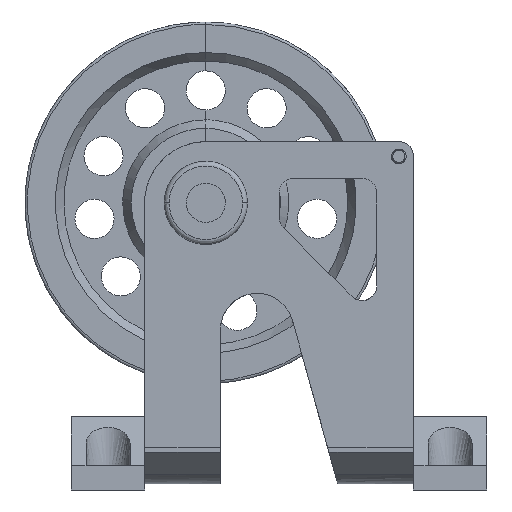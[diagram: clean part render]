
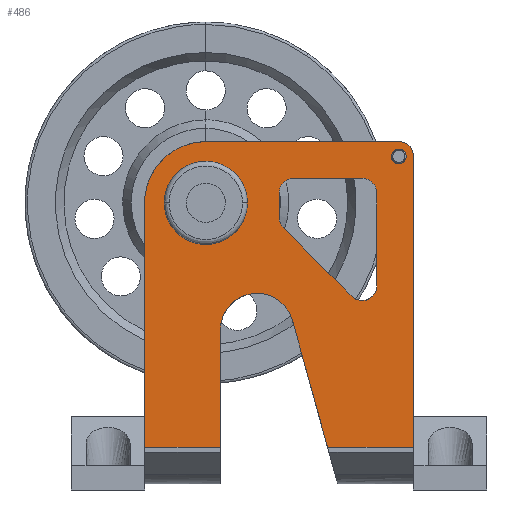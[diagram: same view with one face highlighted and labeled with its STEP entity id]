
A CAD part, front view. The second image highlights one B-rep face of the part: STEP entity #486.
In plain terms, the highlighted free-form (B-spline) face has degree [1, 1] with [2, 2] control points.
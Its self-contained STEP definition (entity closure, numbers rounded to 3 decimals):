
#117=B_SPLINE_SURFACE_WITH_KNOTS('',1,1,((#8280,#8281),(#8282,#8283)),.UNSPECIFIED.,
.F.,.F.,.F.,(2,2),(2,2),(-140.,-15.),(-31.,79.),.UNSPECIFIED.);
#324=FACE_BOUND('',#1217,.T.);
#325=FACE_BOUND('',#1218,.T.);
#326=FACE_BOUND('',#1219,.T.);
#486=ADVANCED_FACE('',(#833,#324,#325,#326),#117,.T.);
#833=FACE_OUTER_BOUND('',#1216,.T.);
#1216=EDGE_LOOP('',(#2124,#2125,#2126,#2127,#2128));
#1217=EDGE_LOOP('',(#2129,#2130));
#1218=EDGE_LOOP('',(#2131,#2132));
#1219=EDGE_LOOP('',(#2133,#2134));
#2124=ORIENTED_EDGE('',*,*,#3274,.F.);
#2125=ORIENTED_EDGE('',*,*,#3346,.F.);
#2126=ORIENTED_EDGE('',*,*,#3258,.T.);
#2127=ORIENTED_EDGE('',*,*,#3305,.F.);
#2128=ORIENTED_EDGE('',*,*,#3345,.F.);
#2129=ORIENTED_EDGE('',*,*,#3393,.F.);
#2130=ORIENTED_EDGE('',*,*,#3357,.F.);
#2131=ORIENTED_EDGE('',*,*,#3360,.T.);
#2132=ORIENTED_EDGE('',*,*,#3399,.T.);
#2133=ORIENTED_EDGE('',*,*,#3354,.T.);
#2134=ORIENTED_EDGE('',*,*,#3387,.T.);
#3258=EDGE_CURVE('',#3936,#3947,#4618,.T.);
#3274=EDGE_CURVE('',#3966,#3967,#14506,.T.);
#3305=EDGE_CURVE('',#3994,#3947,#14515,.T.);
#3345=EDGE_CURVE('',#3967,#3994,#4679,.T.);
#3346=EDGE_CURVE('',#3936,#3966,#4680,.T.);
#3354=EDGE_CURVE('',#4018,#4030,#14534,.T.);
#3357=EDGE_CURVE('',#4019,#4034,#14535,.T.);
#3360=EDGE_CURVE('',#4020,#4038,#14536,.T.);
#3387=EDGE_CURVE('',#4030,#4018,#14543,.T.);
#3393=EDGE_CURVE('',#4034,#4019,#14547,.T.);
#3399=EDGE_CURVE('',#4038,#4020,#14551,.T.);
#3936=VERTEX_POINT('',#8605);
#3947=VERTEX_POINT('',#8616);
#3966=VERTEX_POINT('',#8635);
#3967=VERTEX_POINT('',#8636);
#3994=VERTEX_POINT('',#8663);
#4018=VERTEX_POINT('',#8687);
#4019=VERTEX_POINT('',#8688);
#4020=VERTEX_POINT('',#8689);
#4030=VERTEX_POINT('',#8699);
#4034=VERTEX_POINT('',#8703);
#4038=VERTEX_POINT('',#8707);
#4618=B_SPLINE_CURVE_WITH_KNOTS('',1,(#6949,#6950),.UNSPECIFIED.,.F.,.F.,
(2,2),(-246.695,-217.238),.UNSPECIFIED.);
#4679=B_SPLINE_CURVE_WITH_KNOTS('',1,(#7618,#7619),.UNSPECIFIED.,.F.,.F.,
(2,2),(-50.404,-19.404),.UNSPECIFIED.);
#4680=B_SPLINE_CURVE_WITH_KNOTS('',1,(#7620,#7621),.UNSPECIFIED.,.F.,.F.,
(2,2),(-129.404,-94.253),.UNSPECIFIED.);
#6949=CARTESIAN_POINT('',(110.,-119.23,15.));
#6950=CARTESIAN_POINT('',(110.,-119.23,44.456));
#7122=CARTESIAN_POINT('',(74.849,-119.23,15.));
#7123=CARTESIAN_POINT('',(67.653,-119.23,41.001));
#7124=CARTESIAN_POINT('',(60.457,-119.23,67.001));
#7125=CARTESIAN_POINT('',(56.962,-119.23,79.627));
#7126=CARTESIAN_POINT('',(43.981,-119.23,77.864));
#7127=CARTESIAN_POINT('',(31.,-119.23,76.1));
#7128=CARTESIAN_POINT('',(31.,-119.23,63.));
#7129=CARTESIAN_POINT('',(31.,-119.23,39.));
#7130=CARTESIAN_POINT('',(31.,-119.23,15.));
#7413=CARTESIAN_POINT('',(0.,-119.23,15.));
#7414=CARTESIAN_POINT('',(0.,-119.23,65.));
#7415=CARTESIAN_POINT('',(0.,-119.23,115.));
#7416=CARTESIAN_POINT('',(0.,-119.23,140.));
#7417=CARTESIAN_POINT('',(25.,-119.23,140.));
#7418=CARTESIAN_POINT('',(64.5,-119.23,140.));
#7419=CARTESIAN_POINT('',(104.,-119.23,140.));
#7420=CARTESIAN_POINT('',(110.,-119.23,140.));
#7421=CARTESIAN_POINT('',(110.,-119.23,134.));
#7422=CARTESIAN_POINT('',(110.,-119.23,89.228));
#7423=CARTESIAN_POINT('',(110.,-119.23,44.456));
#7618=CARTESIAN_POINT('',(31.,-119.23,15.));
#7619=CARTESIAN_POINT('',(0.,-119.23,15.));
#7620=CARTESIAN_POINT('',(110.,-119.23,15.));
#7621=CARTESIAN_POINT('',(74.849,-119.23,15.));
#7664=CARTESIAN_POINT('',(107.,-119.23,134.));
#7665=CARTESIAN_POINT('',(107.,-119.23,131.));
#7666=CARTESIAN_POINT('',(104.,-119.23,131.));
#7667=CARTESIAN_POINT('',(101.,-119.23,131.));
#7668=CARTESIAN_POINT('',(101.,-119.23,134.));
#7673=CARTESIAN_POINT('',(95.,-119.23,81.));
#7674=CARTESIAN_POINT('',(95.,-119.23,100.));
#7675=CARTESIAN_POINT('',(95.,-119.23,119.));
#7676=CARTESIAN_POINT('',(95.,-119.23,125.));
#7677=CARTESIAN_POINT('',(89.,-119.23,125.));
#7678=CARTESIAN_POINT('',(75.,-119.23,125.));
#7679=CARTESIAN_POINT('',(61.,-119.23,125.));
#7684=CARTESIAN_POINT('',(35.,-119.23,115.));
#7685=CARTESIAN_POINT('',(35.,-119.23,105.));
#7686=CARTESIAN_POINT('',(25.,-119.23,105.));
#7687=CARTESIAN_POINT('',(15.,-119.23,105.));
#7688=CARTESIAN_POINT('',(15.,-119.23,115.));
#7862=CARTESIAN_POINT('',(101.,-119.23,134.));
#7863=CARTESIAN_POINT('',(101.,-119.23,137.));
#7864=CARTESIAN_POINT('',(104.,-119.23,137.));
#7865=CARTESIAN_POINT('',(107.,-119.23,137.));
#7866=CARTESIAN_POINT('',(107.,-119.23,134.));
#7894=CARTESIAN_POINT('',(61.,-119.23,125.));
#7895=CARTESIAN_POINT('',(55.,-119.23,125.));
#7896=CARTESIAN_POINT('',(55.,-119.23,119.));
#7897=CARTESIAN_POINT('',(55.,-119.23,114.));
#7898=CARTESIAN_POINT('',(55.,-119.23,109.));
#7899=CARTESIAN_POINT('',(55.,-119.23,106.515));
#7900=CARTESIAN_POINT('',(56.757,-119.23,104.757));
#7901=CARTESIAN_POINT('',(70.757,-119.23,90.757));
#7902=CARTESIAN_POINT('',(84.757,-119.23,76.757));
#7903=CARTESIAN_POINT('',(87.592,-119.23,73.923));
#7904=CARTESIAN_POINT('',(91.296,-119.23,75.457));
#7905=CARTESIAN_POINT('',(95.,-119.23,76.991));
#7906=CARTESIAN_POINT('',(95.,-119.23,81.));
#7926=CARTESIAN_POINT('',(15.,-119.23,115.));
#7927=CARTESIAN_POINT('',(15.,-119.23,125.));
#7928=CARTESIAN_POINT('',(25.,-119.23,125.));
#7929=CARTESIAN_POINT('',(35.,-119.23,125.));
#7930=CARTESIAN_POINT('',(35.,-119.23,115.));
#8280=CARTESIAN_POINT('',(0.,-119.23,140.));
#8281=CARTESIAN_POINT('',(110.,-119.23,140.));
#8282=CARTESIAN_POINT('',(0.,-119.23,15.));
#8283=CARTESIAN_POINT('',(110.,-119.23,15.));
#8605=CARTESIAN_POINT('',(110.,-119.23,15.));
#8616=CARTESIAN_POINT('',(110.,-119.23,44.456));
#8635=CARTESIAN_POINT('',(74.849,-119.23,15.));
#8636=CARTESIAN_POINT('',(31.,-119.23,15.));
#8663=CARTESIAN_POINT('',(0.,-119.23,15.));
#8687=CARTESIAN_POINT('',(107.,-119.23,134.));
#8688=CARTESIAN_POINT('',(95.,-119.23,81.));
#8689=CARTESIAN_POINT('',(35.,-119.23,115.));
#8699=CARTESIAN_POINT('',(101.,-119.23,134.));
#8703=CARTESIAN_POINT('',(61.,-119.23,125.));
#8707=CARTESIAN_POINT('',(15.,-119.23,115.));
#14506=(
BOUNDED_CURVE()
B_SPLINE_CURVE(2,(#7122,#7123,#7124,#7125,#7126,#7127,#7128,#7129,#7130),
.UNSPECIFIED.,.F.,.F.)
B_SPLINE_CURVE_WITH_KNOTS((3,2,2,2,3),(308.259,362.214,
383.751,405.288,453.288),.UNSPECIFIED.)
CURVE()
GEOMETRIC_REPRESENTATION_ITEM()
RATIONAL_B_SPLINE_CURVE((1.,1.,1.,0.753,1.,0.753,
1.,1.,1.))
REPRESENTATION_ITEM('')
);
#14515=(
BOUNDED_CURVE()
B_SPLINE_CURVE(2,(#7413,#7414,#7415,#7416,#7417,#7418,#7419,#7420,#7421,
#7422,#7423),.UNSPECIFIED.,.F.,.F.)
B_SPLINE_CURVE_WITH_KNOTS((3,2,2,2,2,3),(-100.,0.,39.27,118.27,
127.695,217.238),.UNSPECIFIED.)
CURVE()
GEOMETRIC_REPRESENTATION_ITEM()
RATIONAL_B_SPLINE_CURVE((1.,1.,1.,0.707,1.,1.,1.,0.707,
1.,1.,1.))
REPRESENTATION_ITEM('')
);
#14534=(
BOUNDED_CURVE()
B_SPLINE_CURVE(2,(#7664,#7665,#7666,#7667,#7668),.UNSPECIFIED.,.F.,.F.)
B_SPLINE_CURVE_WITH_KNOTS((3,2,3),(-18.85,-14.137,-9.425),
.UNSPECIFIED.)
CURVE()
GEOMETRIC_REPRESENTATION_ITEM()
RATIONAL_B_SPLINE_CURVE((1.,0.707,1.,0.707,1.))
REPRESENTATION_ITEM('')
);
#14535=(
BOUNDED_CURVE()
B_SPLINE_CURVE(2,(#7673,#7674,#7675,#7676,#7677,#7678,#7679),.UNSPECIFIED.,
.F.,.F.)
B_SPLINE_CURVE_WITH_KNOTS((3,2,2,3),(-94.85,-56.85,
-47.425,-19.425),.UNSPECIFIED.)
CURVE()
GEOMETRIC_REPRESENTATION_ITEM()
RATIONAL_B_SPLINE_CURVE((1.,1.,1.,0.707,1.,1.,1.))
REPRESENTATION_ITEM('')
);
#14536=(
BOUNDED_CURVE()
B_SPLINE_CURVE(2,(#7684,#7685,#7686,#7687,#7688),.UNSPECIFIED.,.F.,.F.)
B_SPLINE_CURVE_WITH_KNOTS((3,2,3),(-62.832,-47.124,-31.416),
.UNSPECIFIED.)
CURVE()
GEOMETRIC_REPRESENTATION_ITEM()
RATIONAL_B_SPLINE_CURVE((1.,0.707,1.,0.707,1.))
REPRESENTATION_ITEM('')
);
#14543=(
BOUNDED_CURVE()
B_SPLINE_CURVE(2,(#7862,#7863,#7864,#7865,#7866),.UNSPECIFIED.,.F.,.F.)
B_SPLINE_CURVE_WITH_KNOTS((3,2,3),(-9.425,-4.712,0.),
.UNSPECIFIED.)
CURVE()
GEOMETRIC_REPRESENTATION_ITEM()
RATIONAL_B_SPLINE_CURVE((1.,0.707,1.,0.707,1.))
REPRESENTATION_ITEM('')
);
#14547=(
BOUNDED_CURVE()
B_SPLINE_CURVE(2,(#7894,#7895,#7896,#7897,#7898,#7899,#7900,#7901,#7902,
#7903,#7904,#7905,#7906),.UNSPECIFIED.,.F.,.F.)
B_SPLINE_CURVE_WITH_KNOTS((3,2,2,2,2,2,3),(-19.425,-10.,0.,4.712,
44.31,51.379,58.448),.UNSPECIFIED.)
CURVE()
GEOMETRIC_REPRESENTATION_ITEM()
RATIONAL_B_SPLINE_CURVE((1.,0.707,1.,1.,1.,0.924,
1.,1.,1.,0.831,1.,0.831,1.))
REPRESENTATION_ITEM('')
);
#14551=(
BOUNDED_CURVE()
B_SPLINE_CURVE(2,(#7926,#7927,#7928,#7929,#7930),.UNSPECIFIED.,.F.,.F.)
B_SPLINE_CURVE_WITH_KNOTS((3,2,3),(-31.416,-15.708,0.),
.UNSPECIFIED.)
CURVE()
GEOMETRIC_REPRESENTATION_ITEM()
RATIONAL_B_SPLINE_CURVE((1.,0.707,1.,0.707,1.))
REPRESENTATION_ITEM('')
);
